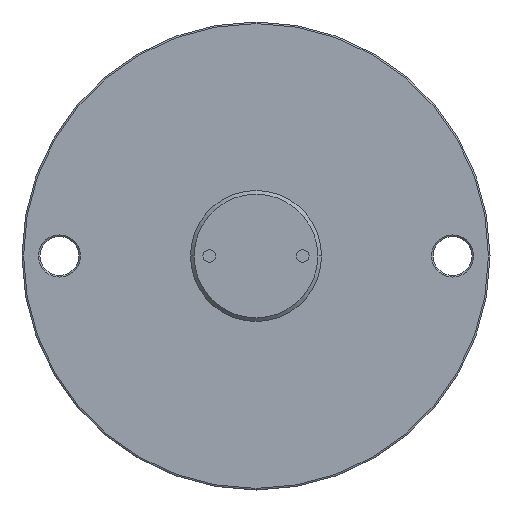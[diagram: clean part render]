
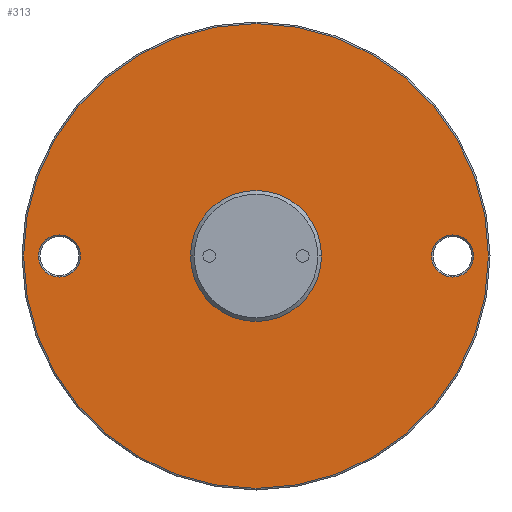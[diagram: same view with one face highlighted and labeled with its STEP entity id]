
A CAD part, front view. The second image highlights one B-rep face of the part: STEP entity #313.
In plain terms, the highlighted planar face has unit normal (0, -1, 0).
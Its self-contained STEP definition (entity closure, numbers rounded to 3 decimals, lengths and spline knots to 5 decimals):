
#313=ADVANCED_FACE('214:22',(#513,#514,#515,#516),#517,.T.);
#513=FACE_BOUND('',#3356,.T.);
#514=FACE_OUTER_BOUND('',#3357,.T.);
#515=FACE_BOUND('',#3358,.T.);
#516=FACE_BOUND('',#3359,.T.);
#517=PLANE('',#3360);
#3356=EDGE_LOOP('',(#4015,#4016));
#3357=EDGE_LOOP('',(#4017,#4018));
#3358=EDGE_LOOP('',(#4019,#4020));
#3359=EDGE_LOOP('',(#4021,#4022));
#3360=AXIS2_PLACEMENT_3D('',#4023,#4024,#4025);
#4015=ORIENTED_EDGE('',*,*,#4304,.F.);
#4016=ORIENTED_EDGE('',*,*,#4313,.F.);
#4017=ORIENTED_EDGE('',*,*,#4314,.F.);
#4018=ORIENTED_EDGE('',*,*,#4283,.F.);
#4019=ORIENTED_EDGE('',*,*,#4315,.T.);
#4020=ORIENTED_EDGE('',*,*,#4289,.T.);
#4021=ORIENTED_EDGE('',*,*,#4311,.F.);
#4022=ORIENTED_EDGE('',*,*,#4312,.F.);
#4023=CARTESIAN_POINT('',(0.0745,0.,0.));
#4024=DIRECTION('',(0.,-1.0,0.));
#4025=DIRECTION('',(-1.0,0.,0.));
#4283=EDGE_CURVE('214:55',#4617,#4620,#4621,.T.);
#4289=EDGE_CURVE('214:52',#4625,#4629,#4631,.T.);
#4304=EDGE_CURVE('255:969',#4656,#4653,#4658,.T.);
#4311=EDGE_CURVE('255:1170',#4667,#4664,#4669,.T.);
#4312=EDGE_CURVE('255:1170',#4664,#4667,#4670,.T.);
#4313=EDGE_CURVE('255:969',#4653,#4656,#4671,.T.);
#4314=EDGE_CURVE('214:55',#4620,#4617,#4672,.T.);
#4315=EDGE_CURVE('214:52',#4629,#4625,#4673,.T.);
#4617=VERTEX_POINT('',#6574);
#4620=VERTEX_POINT('',#6577);
#4621=CIRCLE('',#6578,0.0745);
#4625=VERTEX_POINT('',#6582);
#4629=VERTEX_POINT('',#6587);
#4631=CIRCLE('',#6590,0.021);
#4653=VERTEX_POINT('',#6618);
#4656=VERTEX_POINT('',#6622);
#4658=CIRCLE('',#6625,0.00675);
#4664=VERTEX_POINT('',#6633);
#4667=VERTEX_POINT('',#6637);
#4669=CIRCLE('',#6640,0.00675);
#4670=CIRCLE('',#6641,0.00675);
#4671=CIRCLE('',#6642,0.00675);
#4672=CIRCLE('',#6643,0.0745);
#4673=CIRCLE('',#6644,0.021);
#6574=CARTESIAN_POINT('',(0.,0.,0.0745));
#6577=CARTESIAN_POINT('',(0.,0.,-0.0745));
#6578=AXIS2_PLACEMENT_3D('',#7009,#7010,#7011);
#6582=CARTESIAN_POINT('',(0.021,0.,0.));
#6587=CARTESIAN_POINT('',(-0.021,0.,0.));
#6590=AXIS2_PLACEMENT_3D('',#7023,#7024,#7025);
#6618=CARTESIAN_POINT('',(-0.06975,0.,0.));
#6622=CARTESIAN_POINT('',(-0.05625,0.,0.));
#6625=AXIS2_PLACEMENT_3D('',#7052,#7053,#7054);
#6633=CARTESIAN_POINT('',(0.05625,0.,0.));
#6637=CARTESIAN_POINT('',(0.06975,0.,0.));
#6640=AXIS2_PLACEMENT_3D('',#7065,#7066,#7067);
#6641=AXIS2_PLACEMENT_3D('',#7068,#7069,#7070);
#6642=AXIS2_PLACEMENT_3D('',#7071,#7072,#7073);
#6643=AXIS2_PLACEMENT_3D('',#7074,#7075,#7076);
#6644=AXIS2_PLACEMENT_3D('',#7077,#7078,#7079);
#7009=CARTESIAN_POINT('',(0.,0.,0.));
#7010=DIRECTION('',(0.,1.0,0.));
#7011=DIRECTION('',(1.0,0.,0.));
#7023=CARTESIAN_POINT('',(0.,0.,0.));
#7024=DIRECTION('',(0.,1.0,0.));
#7025=DIRECTION('',(1.0,0.,0.));
#7052=CARTESIAN_POINT('',(-0.063,0.,0.));
#7053=DIRECTION('',(0.,-1.0,0.));
#7054=DIRECTION('',(-1.0,0.,0.));
#7065=CARTESIAN_POINT('',(0.063,0.,0.));
#7066=DIRECTION('',(0.,-1.0,0.));
#7067=DIRECTION('',(-1.0,0.,0.));
#7068=CARTESIAN_POINT('',(0.063,0.,0.));
#7069=DIRECTION('',(0.,-1.0,0.));
#7070=DIRECTION('',(-1.0,0.,0.));
#7071=CARTESIAN_POINT('',(-0.063,0.,0.));
#7072=DIRECTION('',(0.,-1.0,0.));
#7073=DIRECTION('',(-1.0,0.,0.));
#7074=CARTESIAN_POINT('',(0.,0.,0.));
#7075=DIRECTION('',(0.,1.0,0.));
#7076=DIRECTION('',(1.0,0.,0.));
#7077=CARTESIAN_POINT('',(0.,0.,0.));
#7078=DIRECTION('',(0.,1.0,0.));
#7079=DIRECTION('',(1.0,0.,0.));
